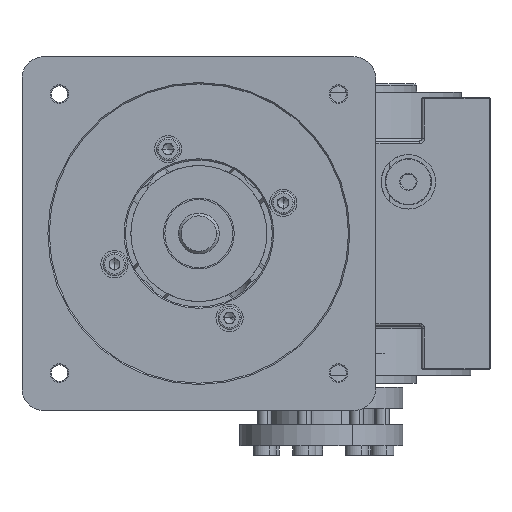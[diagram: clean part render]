
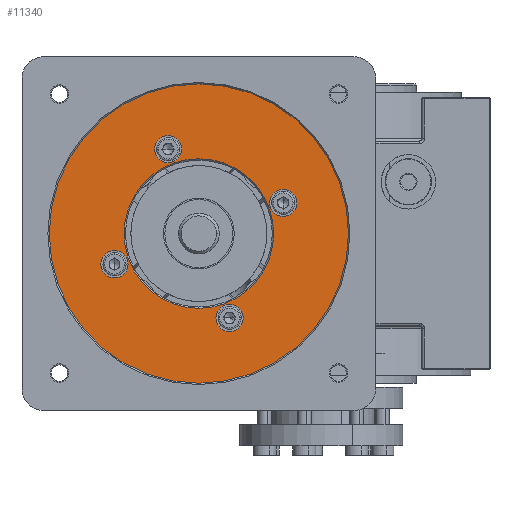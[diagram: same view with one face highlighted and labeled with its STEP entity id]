
A CAD part, left-side view. The second image highlights one B-rep face of the part: STEP entity #11340.
In plain terms, the highlighted planar face has unit normal (-1, 0, 0).
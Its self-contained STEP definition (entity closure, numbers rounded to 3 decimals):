
#318 = EDGE_CURVE ( 'NONE', #64753, #65068, #24085, .T. ) ;
#737 = FACE_BOUND ( 'NONE', #69567, .T. ) ;
#1033 = EDGE_CURVE ( 'NONE', #59848, #31330, #58930, .T. ) ;
#1152 = DIRECTION ( 'NONE',  ( 0., -1., 0. ) ) ;
#1555 = ORIENTED_EDGE ( 'NONE', *, *, #69509, .T. ) ;
#1826 = ORIENTED_EDGE ( 'NONE', *, *, #12560, .T. ) ;
#4544 = ORIENTED_EDGE ( 'NONE', *, *, #48947, .F. ) ;
#4751 = DIRECTION ( 'NONE',  ( 0., -1., 0. ) ) ;
#4883 = CIRCLE ( 'NONE', #44680, 55. ) ;
#5885 = CIRCLE ( 'NONE', #47987, 5. ) ;
#6368 = CIRCLE ( 'NONE', #14350, 5. ) ;
#6600 = CARTESIAN_POINT ( 'NONE',  ( -151.219, 0.441, 8.787 ) ) ;
#7200 = CARTESIAN_POINT ( 'NONE',  ( -151.219, 5.441, 8.787 ) ) ;
#7264 = CIRCLE ( 'NONE', #43668, 5. ) ;
#8052 = CARTESIAN_POINT ( 'NONE',  ( -151.219, 5.441, 8.787 ) ) ;
#8176 = AXIS2_PLACEMENT_3D ( 'NONE', #40136, #61918, #50143 ) ;
#10914 = CARTESIAN_POINT ( 'NONE',  ( -151.219, 72.461, -13.787 ) ) ;
#11169 = AXIS2_PLACEMENT_3D ( 'NONE', #45729, #66451, #18674 ) ;
#11340 = ADVANCED_FACE ( 'NONE', ( #18192, #28487, #12840, #33498, #737, #34556 ), #56320, .T. ) ;
#11396 = AXIS2_PLACEMENT_3D ( 'NONE', #7200, #18610, #1152 ) ;
#12463 = DIRECTION ( 'NONE',  ( -1., 0., 0. ) ) ;
#12560 = EDGE_CURVE ( 'NONE', #18206, #26657, #51768, .T. ) ;
#12840 = FACE_BOUND ( 'NONE', #21013, .T. ) ;
#13049 = EDGE_LOOP ( 'NONE', ( #55078, #4544 ) ) ;
#14350 = AXIS2_PLACEMENT_3D ( 'NONE', #24371, #46459, #57186 ) ;
#14756 = EDGE_LOOP ( 'NONE', ( #1826, #1555 ) ) ;
#14988 = DIRECTION ( 'NONE',  ( 0., -1., 0. ) ) ;
#15092 = CARTESIAN_POINT ( 'NONE',  ( -151.219, 36.451, -2.5 ) ) ;
#15316 = EDGE_CURVE ( 'NONE', #53455, #36614, #58955, .T. ) ;
#15356 = DIRECTION ( 'NONE',  ( -1., 0., 0. ) ) ;
#17341 = DIRECTION ( 'NONE',  ( 0., -1., 0. ) ) ;
#18154 = DIRECTION ( 'NONE',  ( 0., -1., 0. ) ) ;
#18192 = FACE_BOUND ( 'NONE', #63991, .T. ) ;
#18206 = VERTEX_POINT ( 'NONE', #40240 ) ;
#18413 = CIRCLE ( 'NONE', #67360, 27.5 ) ;
#18610 = DIRECTION ( 'NONE',  ( -1., 0., 0. ) ) ;
#18674 = DIRECTION ( 'NONE',  ( 0., -1., 0. ) ) ;
#19182 = AXIS2_PLACEMENT_3D ( 'NONE', #55119, #28005, #17341 ) ;
#19553 = AXIS2_PLACEMENT_3D ( 'NONE', #44188, #50246, #65957 ) ;
#19828 = EDGE_LOOP ( 'NONE', ( #39986, #37128 ) ) ;
#20083 = EDGE_CURVE ( 'NONE', #31330, #59848, #67837, .T. ) ;
#20742 = ORIENTED_EDGE ( 'NONE', *, *, #1033, .F. ) ;
#21013 = EDGE_LOOP ( 'NONE', ( #20742, #58891 ) ) ;
#22794 = EDGE_CURVE ( 'NONE', #65068, #64753, #18413, .T. ) ;
#24085 = CIRCLE ( 'NONE', #8176, 27.5 ) ;
#24371 = CARTESIAN_POINT ( 'NONE',  ( -151.219, 47.738, 28.51 ) ) ;
#24957 = ORIENTED_EDGE ( 'NONE', *, *, #22794, .T. ) ;
#26007 = CARTESIAN_POINT ( 'NONE',  ( -151.219, 91.451, -2.5 ) ) ;
#26657 = VERTEX_POINT ( 'NONE', #26007 ) ;
#27314 = CARTESIAN_POINT ( 'NONE',  ( -151.219, 25.164, -33.51 ) ) ;
#28005 = DIRECTION ( 'NONE',  ( -1., 0., 0. ) ) ;
#28272 = CARTESIAN_POINT ( 'NONE',  ( -151.219, 63.951, -2.5 ) ) ;
#28487 = FACE_BOUND ( 'NONE', #19828, .T. ) ;
#28910 = CARTESIAN_POINT ( 'NONE',  ( -151.219, 52.738, 28.51 ) ) ;
#29368 = ORIENTED_EDGE ( 'NONE', *, *, #318, .T. ) ;
#29586 = CARTESIAN_POINT ( 'NONE',  ( -151.219, 62.461, -13.787 ) ) ;
#29793 = CIRCLE ( 'NONE', #69659, 5. ) ;
#29794 = DIRECTION ( 'NONE',  ( -1., 0., 0. ) ) ;
#30507 = DIRECTION ( 'NONE',  ( -1., 0., 0. ) ) ;
#31215 = CARTESIAN_POINT ( 'NONE',  ( -151.219, 10.441, 8.787 ) ) ;
#31330 = VERTEX_POINT ( 'NONE', #31215 ) ;
#31551 = ORIENTED_EDGE ( 'NONE', *, *, #32638, .F. ) ;
#32638 = EDGE_CURVE ( 'NONE', #42014, #42892, #47595, .T. ) ;
#33498 = FACE_BOUND ( 'NONE', #13049, .T. ) ;
#33544 = VERTEX_POINT ( 'NONE', #41585 ) ;
#34556 = FACE_OUTER_BOUND ( 'NONE', #14756, .T. ) ;
#35131 = EDGE_CURVE ( 'NONE', #42892, #42014, #29793, .T. ) ;
#36614 = VERTEX_POINT ( 'NONE', #28910 ) ;
#37128 = ORIENTED_EDGE ( 'NONE', *, *, #58118, .F. ) ;
#37815 = CARTESIAN_POINT ( 'NONE',  ( -151.219, 8.951, -2.5 ) ) ;
#39986 = ORIENTED_EDGE ( 'NONE', *, *, #45418, .F. ) ;
#40136 = CARTESIAN_POINT ( 'NONE',  ( -151.219, 36.451, -2.5 ) ) ;
#40240 = CARTESIAN_POINT ( 'NONE',  ( -151.219, -18.549, -2.5 ) ) ;
#41585 = CARTESIAN_POINT ( 'NONE',  ( -151.219, 20.164, -33.51 ) ) ;
#42014 = VERTEX_POINT ( 'NONE', #10914 ) ;
#42578 = DIRECTION ( 'NONE',  ( 0., -1., 0. ) ) ;
#42845 = DIRECTION ( 'NONE',  ( 1., 0., 0. ) ) ;
#42892 = VERTEX_POINT ( 'NONE', #29586 ) ;
#43668 = AXIS2_PLACEMENT_3D ( 'NONE', #27314, #15356, #14988 ) ;
#44188 = CARTESIAN_POINT ( 'NONE',  ( -151.219, 36.451, -2.5 ) ) ;
#44680 = AXIS2_PLACEMENT_3D ( 'NONE', #59322, #63281, #48250 ) ;
#44926 = AXIS2_PLACEMENT_3D ( 'NONE', #46653, #52729, #68776 ) ;
#45418 = EDGE_CURVE ( 'NONE', #33544, #68386, #7264, .T. ) ;
#45729 = CARTESIAN_POINT ( 'NONE',  ( -151.219, 47.738, 28.51 ) ) ;
#45901 = CARTESIAN_POINT ( 'NONE',  ( -151.219, 67.461, -13.787 ) ) ;
#46459 = DIRECTION ( 'NONE',  ( -1., 0., 0. ) ) ;
#46653 = CARTESIAN_POINT ( 'NONE',  ( -151.219, 36.451, -2.5 ) ) ;
#47595 = CIRCLE ( 'NONE', #19182, 5. ) ;
#47929 = CARTESIAN_POINT ( 'NONE',  ( -151.219, 25.164, -33.51 ) ) ;
#47987 = AXIS2_PLACEMENT_3D ( 'NONE', #47929, #30507, #42578 ) ;
#48250 = DIRECTION ( 'NONE',  ( 0., -1., 0. ) ) ;
#48947 = EDGE_CURVE ( 'NONE', #36614, #53455, #6368, .T. ) ;
#50143 = DIRECTION ( 'NONE',  ( 0., -1., 0. ) ) ;
#50246 = DIRECTION ( 'NONE',  ( -1., 0., 0. ) ) ;
#51768 = CIRCLE ( 'NONE', #44926, 55. ) ;
#52729 = DIRECTION ( 'NONE',  ( -1., 0., 0. ) ) ;
#53455 = VERTEX_POINT ( 'NONE', #66717 ) ;
#55078 = ORIENTED_EDGE ( 'NONE', *, *, #15316, .F. ) ;
#55119 = CARTESIAN_POINT ( 'NONE',  ( -151.219, 67.461, -13.787 ) ) ;
#55310 = AXIS2_PLACEMENT_3D ( 'NONE', #8052, #29794, #57615 ) ;
#55832 = CARTESIAN_POINT ( 'NONE',  ( -151.219, 30.164, -33.51 ) ) ;
#56320 = PLANE ( 'NONE',  #19553 ) ;
#57186 = DIRECTION ( 'NONE',  ( 0., -1., 0. ) ) ;
#57615 = DIRECTION ( 'NONE',  ( 0., -1., 0. ) ) ;
#58118 = EDGE_CURVE ( 'NONE', #68386, #33544, #5885, .T. ) ;
#58891 = ORIENTED_EDGE ( 'NONE', *, *, #20083, .F. ) ;
#58930 = CIRCLE ( 'NONE', #11396, 5. ) ;
#58955 = CIRCLE ( 'NONE', #11169, 5. ) ;
#59322 = CARTESIAN_POINT ( 'NONE',  ( -151.219, 36.451, -2.5 ) ) ;
#59848 = VERTEX_POINT ( 'NONE', #6600 ) ;
#61918 = DIRECTION ( 'NONE',  ( 1., 0., 0. ) ) ;
#63281 = DIRECTION ( 'NONE',  ( -1., 0., 0. ) ) ;
#63991 = EDGE_LOOP ( 'NONE', ( #65294, #31551 ) ) ;
#64753 = VERTEX_POINT ( 'NONE', #28272 ) ;
#65068 = VERTEX_POINT ( 'NONE', #37815 ) ;
#65294 = ORIENTED_EDGE ( 'NONE', *, *, #35131, .F. ) ;
#65957 = DIRECTION ( 'NONE',  ( 0., -1., 0. ) ) ;
#66451 = DIRECTION ( 'NONE',  ( -1., 0., 0. ) ) ;
#66717 = CARTESIAN_POINT ( 'NONE',  ( -151.219, 42.738, 28.51 ) ) ;
#67360 = AXIS2_PLACEMENT_3D ( 'NONE', #15092, #42845, #4751 ) ;
#67837 = CIRCLE ( 'NONE', #55310, 5. ) ;
#68386 = VERTEX_POINT ( 'NONE', #55832 ) ;
#68776 = DIRECTION ( 'NONE',  ( 0., -1., 0. ) ) ;
#69509 = EDGE_CURVE ( 'NONE', #26657, #18206, #4883, .T. ) ;
#69567 = EDGE_LOOP ( 'NONE', ( #24957, #29368 ) ) ;
#69659 = AXIS2_PLACEMENT_3D ( 'NONE', #45901, #12463, #18154 ) ;
